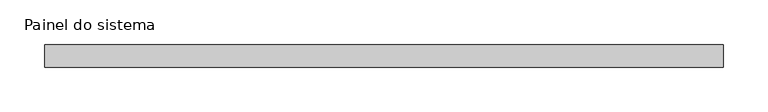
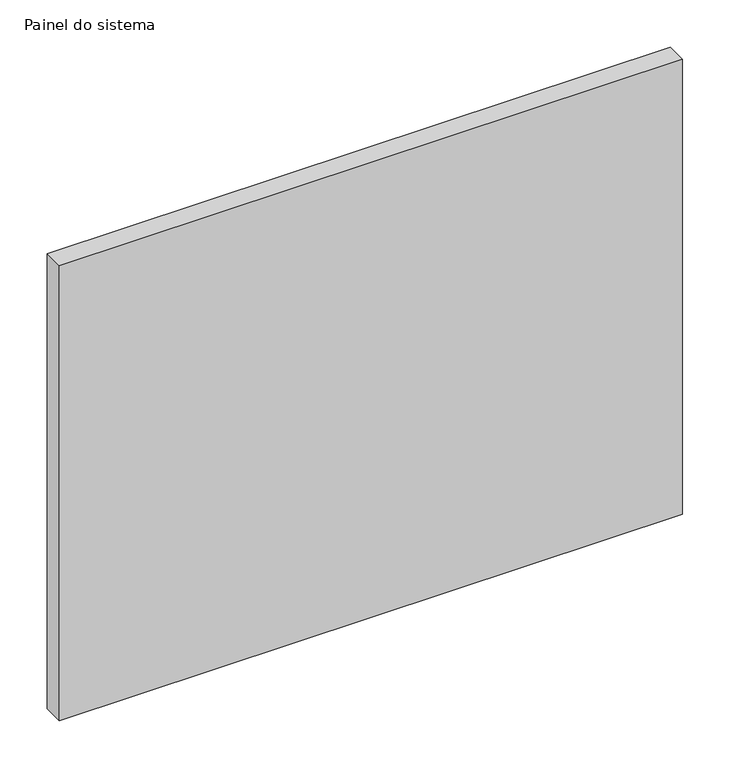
"""IFC4 building model written with IfcOpenShell, lengths in millimetres: plate geometry, Painel do sistema : Envidraçado."""

import ifcopenshell
import ifcopenshell.guid

model = None  # the IFC model being written
_history = None  # IfcOwnerHistory: only IFC2X3 demands one
_inside = {}  # id of a spatial element -> (the spatial element, [elements in it])
_under = {}  # id of a project, library or spatial element -> (it, [spatial elements below it])
_declared = {}  # id of a project -> (the project, [libraries it declares])
_typed = {}  # id of a type object -> (the type object, [elements of that type])
_made_of = {}  # id of a material, layer set ... -> (it, [elements and type objects made of it])


def new_model(schema):
    """Start an empty IFC model of exactly this schema.

    Asked for "IFC4X3", IfcOpenShell would pick the latest addendum, in which some entities
    have other attributes; the version numbers below select the first issue.
    IFC2X3 requires an IfcOwnerHistory on every rooted entity: one is made here for all.
    """
    global model, _history
    if schema == "IFC4X3":
        model = ifcopenshell.file(schema_version=(4, 3, 0, 0))
    else:
        model = ifcopenshell.file(schema=schema)
    _inside.clear()
    _under.clear()
    _declared.clear()
    _typed.clear()
    _made_of.clear()
    _history = None
    if model.schema == "IFC2X3":
        org = make("IfcOrganization", Name="unknown")
        user = make(
            "IfcPersonAndOrganization",
            ThePerson=make("IfcPerson", FamilyName="unknown"),
            TheOrganization=org,
        )
        app = make(
            "IfcApplication",
            ApplicationDeveloper=org,
            Version="unknown",
            ApplicationFullName="unknown",
            ApplicationIdentifier="unknown",
        )
        _history = make(
            "IfcOwnerHistory",
            OwningUser=user,
            OwningApplication=app,
            ChangeAction="ADDED",
            CreationDate=0,
        )
    return model


def make(cls, **values):
    """One entity of the class cls with the attributes given. An attribute that is None is left unset."""
    return model.create_entity(
        cls, **{name: value for name, value in values.items() if value is not None}
    )


def rooted(cls, **values):
    """An entity with a GlobalId (a new one), such as an element, a storey or a relation."""
    return make(cls, GlobalId=ifcopenshell.guid.new(), OwnerHistory=_history, **values)


def si_unit(unit_type, name, prefix=None):
    """IfcSIUnit, for example si_unit("LENGTHUNIT", "METRE", prefix="MILLI")."""
    return make("IfcSIUnit", UnitType=unit_type, Prefix=prefix, Name=name)


def assignment(units):
    """IfcUnitAssignment: the units of a project."""
    return None if units is None else make("IfcUnitAssignment", Units=units)


def point(xyz):
    """IfcCartesianPoint."""
    return None if xyz is None else make("IfcCartesianPoint", Coordinates=xyz)


def direction(xyz):
    """IfcDirection."""
    return None if xyz is None else make("IfcDirection", DirectionRatios=xyz)


def frame(location, z_axis=None, x_axis=None):
    """IfcAxis2Placement3D, a coordinate frame: its origin and axes. An axis left out is left unset."""
    return make(
        "IfcAxis2Placement3D",
        Location=point(location),
        Axis=direction(z_axis),
        RefDirection=direction(x_axis),
    )


def origin():
    """The frame at (0, 0, 0) with its axes left unset."""
    return frame((0.0, 0.0, 0.0))


def origin_with_axes():
    """The frame at (0, 0, 0) with the z axis (0, 0, 1) and the x axis (1, 0, 0) written out."""
    return frame((0.0, 0.0, 0.0), z_axis=(0.0, 0.0, 1.0), x_axis=(1.0, 0.0, 0.0))


def place(relative_to, where):
    """IfcLocalPlacement: puts the frame where relative to a parent placement (None: the world)."""
    return make(
        "IfcLocalPlacement", PlacementRelTo=relative_to, RelativePlacement=where
    )


def context(
    kind, dimensions, precision=None, world=None, true_north=None, identifier=None
):
    """IfcGeometricRepresentationContext, for example the 3D "Model" context."""
    return make(
        "IfcGeometricRepresentationContext",
        ContextIdentifier=identifier,
        ContextType=kind,
        CoordinateSpaceDimension=dimensions,
        Precision=precision,
        WorldCoordinateSystem=world,
        TrueNorth=true_north,
    )


def project(units=None, contexts=None):
    """IfcProject with its units and contexts."""
    return rooted(
        "IfcProject",
        Name="project",
        RepresentationContexts=contexts,
        UnitsInContext=assignment(units),
    )


def spatial(cls, under=None, at=None, **own):
    """A site, building, storey or space (cls), placed at a placement, below another one or the project."""
    s = rooted(cls, ObjectPlacement=at, **own)
    if under is not None:
        _under.setdefault(under.id(), (under, []))[1].append(s)
    return s


def polyline(points):
    """IfcPolyline through the points."""
    return make("IfcPolyline", Points=[point(p) for p in points])


def outline(outer, holes=None, kind="AREA"):
    """IfcArbitraryClosedProfileDef: a profile drawn as a closed curve; with holes, ...WithVoids."""
    if holes is None:
        return make("IfcArbitraryClosedProfileDef", ProfileType=kind, OuterCurve=outer)
    return make(
        "IfcArbitraryProfileDefWithVoids",
        ProfileType=kind,
        OuterCurve=outer,
        InnerCurves=holes,
    )


def extrude(swept, where, along, depth):
    """IfcExtrudedAreaSolid: the profile swept, set in the frame where, extruded along a direction by depth."""
    return make(
        "IfcExtrudedAreaSolid",
        SweptArea=swept,
        Position=where,
        ExtrudedDirection=direction(along),
        Depth=depth,
    )


def shape(context_of_items, identifier, shape_type, items):
    """IfcShapeRepresentation: the items that make up one representation, for example the "Body"."""
    return make(
        "IfcShapeRepresentation",
        ContextOfItems=context_of_items,
        RepresentationIdentifier=identifier,
        RepresentationType=shape_type,
        Items=items,
    )


def source(mapping_origin, context_of_items, identifier, shape_type, items):
    """IfcRepresentationMap: a shape defined once, which mapped items show again and again."""
    return make(
        "IfcRepresentationMap",
        MappingOrigin=mapping_origin,
        MappedRepresentation=shape(context_of_items, identifier, shape_type, items),
    )


def transform(
    local_origin,
    x_axis=None,
    y_axis=None,
    z_axis=None,
    scale=None,
    scale2=None,
    scale3=None,
    uniform=True,
):
    """IfcCartesianTransformationOperator3D, or its non-uniform kind. x_axis, y_axis, z_axis: its Axis1, 2, 3."""
    if uniform:
        return make(
            "IfcCartesianTransformationOperator3D",
            Axis1=direction(x_axis),
            Axis2=direction(y_axis),
            LocalOrigin=point(local_origin),
            Scale=scale,
            Axis3=direction(z_axis),
        )
    return make(
        "IfcCartesianTransformationOperator3DnonUniform",
        Axis1=direction(x_axis),
        Axis2=direction(y_axis),
        LocalOrigin=point(local_origin),
        Scale=scale,
        Axis3=direction(z_axis),
        Scale2=scale2,
        Scale3=scale3,
    )


def mapped(mapping_source, mapping_target):
    """IfcMappedItem: shows the shape of a source again, moved by a transform."""
    return make(
        "IfcMappedItem", MappingSource=mapping_source, MappingTarget=mapping_target
    )


def made_of(thing, what):
    """Note that an element or type object is made of a material, layer set ...; save() writes the relation."""
    if what is not None:
        _made_of.setdefault(what.id(), (what, []))[1].append(thing)
    return thing


def element(
    cls,
    number,
    at=None,
    inside=None,
    cuts=None,
    type_object=None,
    material=None,
    context=None,
    identifier="Body",
    shape_type=None,
    held_by="IfcProductDefinitionShape",
    body=None,
    shapes=None,
    **own,
):
    """One element of the class cls, such as IfcWall. Its Tag is "e" and its number.

    at: its placement. inside: the storey or other place that contains it. cuts: it is an
    opening in that element (IfcRelVoidsElement). A single representation is given by context,
    identifier, shape_type and body (its items); several are given by shapes. held_by: the class
    of the entity that holds the representations. save() writes the other relations.
    """
    e = rooted(cls, Tag="e%d" % number, ObjectPlacement=at, **own)
    if body is not None:
        shapes = [shape(context, identifier, shape_type, body)]
    if shapes is not None:
        e.Representation = make(held_by, Representations=shapes)
    if inside is not None:
        _inside.setdefault(inside.id(), (inside, []))[1].append(e)
    if cuts is not None:
        rooted(
            "IfcRelVoidsElement", RelatingBuildingElement=cuts, RelatedOpeningElement=e
        )
    if type_object is not None:
        _typed.setdefault(type_object.id(), (type_object, []))[1].append(e)
    return made_of(e, material)


def aggregate(whole, parts):
    """IfcRelAggregates: a whole, such as a stair, and the parts it consists of."""
    return rooted("IfcRelAggregates", RelatingObject=whole, RelatedObjects=parts)


def save(model, path):
    """Write the relations noted so far, then the file.

    IfcRelAggregates (storeys below a building ...), IfcRelContainedInSpatialStructure (elements
    in a storey), IfcRelDefinesByType, IfcRelAssociatesMaterial and IfcRelDeclares: one each for
    every whole, place, type object, material and project.
    """
    for whole, parts in _under.values():
        aggregate(whole, parts)
    for where, things in _inside.values():
        rooted(
            "IfcRelContainedInSpatialStructure",
            RelatedElements=things,
            RelatingStructure=where,
        )
    for kind, things in _typed.values():
        rooted("IfcRelDefinesByType", RelatedObjects=things, RelatingType=kind)
    for what, things in _made_of.values():
        rooted("IfcRelAssociatesMaterial", RelatedObjects=things, RelatingMaterial=what)
    for by, libraries in _declared.values():
        rooted("IfcRelDeclares", RelatingContext=by, RelatedDefinitions=libraries)
    model.write(path)


def painel_do_sistema_11b0d76f(model_context):
    return source(origin(), model_context, "Body", "SweptSolid", [
        extrude(outline(polyline([(379.166496, 24.5), (-379.166496, 24.5), (-379.166496, 49.5), (379.166496, 49.5), (379.166496, 24.5)])), origin_with_axes(), (0.0, 0.0, 1.0), 585.0),
    ])


if __name__ == "__main__":
    model = new_model("IFC4")
    model_context = context("Model", 3, world=origin())
    ifc_project = project(units=[si_unit("LENGTHUNIT", "METRE", prefix="MILLI")], contexts=[model_context])
    site = spatial("IfcSite", under=ifc_project)
    building = spatial("IfcBuilding", under=site)
    placement = place(None, origin())
    painel_do_sistema_shape = painel_do_sistema_11b0d76f(model_context)
    element("IfcPlate", 1, ObjectType="Painel do sistema : Envidraçado", at=placement, inside=building, context=model_context, shape_type="MappedRepresentation", body=[
        mapped(painel_do_sistema_shape, transform((0.0, 0.0, 0.0), x_axis=(1.0, 0.0, 0.0), y_axis=(0.0, 1.0, 0.0), z_axis=(0.0, 0.0, 1.0))),
    ])
    save(model, "model.ifc")
